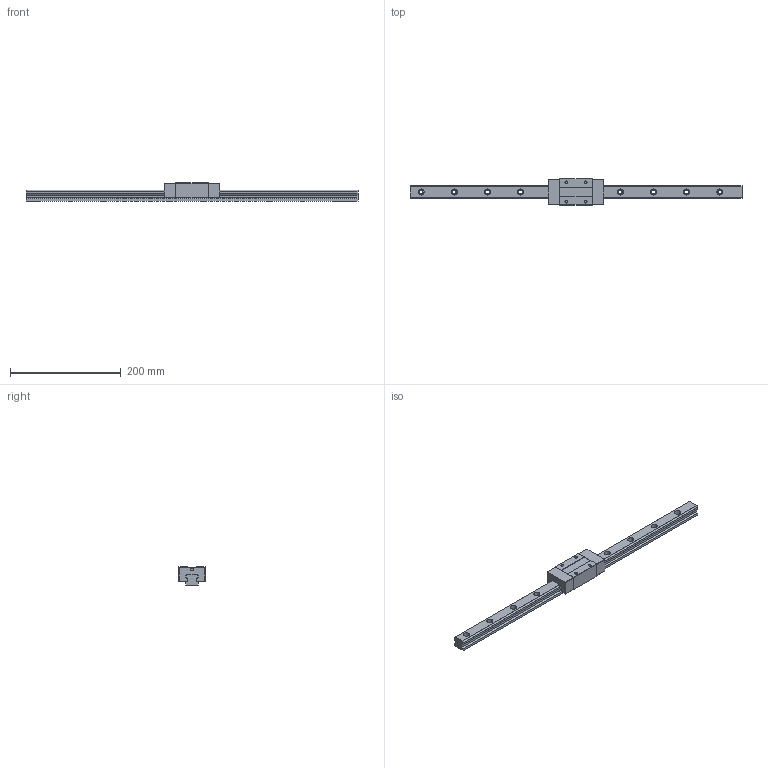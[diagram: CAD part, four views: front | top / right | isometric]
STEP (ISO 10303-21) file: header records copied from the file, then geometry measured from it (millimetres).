
FILE_DESCRIPTION (( 'STEP AP203' ), '1' );
FILE_NAME ('TRS25VN-WZ-§ï.STEP', '2023-08-31T07:00:38', ( '' ), ( '' ), 'SwSTEP 2.0', 'SolidWorks 2022', '' );
FILE_SCHEMA (( 'CONFIG_CONTROL_DESIGN' ));
Length unit declared in the file: millimetre
Products named in the file (1): TRS25VN-WZ-改
Bounding box: 600 x 48 x 33 mm (x, y, z)
Volume: 333054.7 mm3; surface area: 75531.4 mm2
Topology: 1 solids, 1 shells, 177 faces, 472 edges, 312 vertices
Faces by surface type: plane 89, cylinder 88
Entity records: 5675 total; most frequent: DIRECTION 1004, CARTESIAN_POINT 962, ORIENTED_EDGE 944, EDGE_CURVE 472, AXIS2_PLACEMENT_3D 354, VERTEX_POINT 312, LINE 296, VECTOR 296
